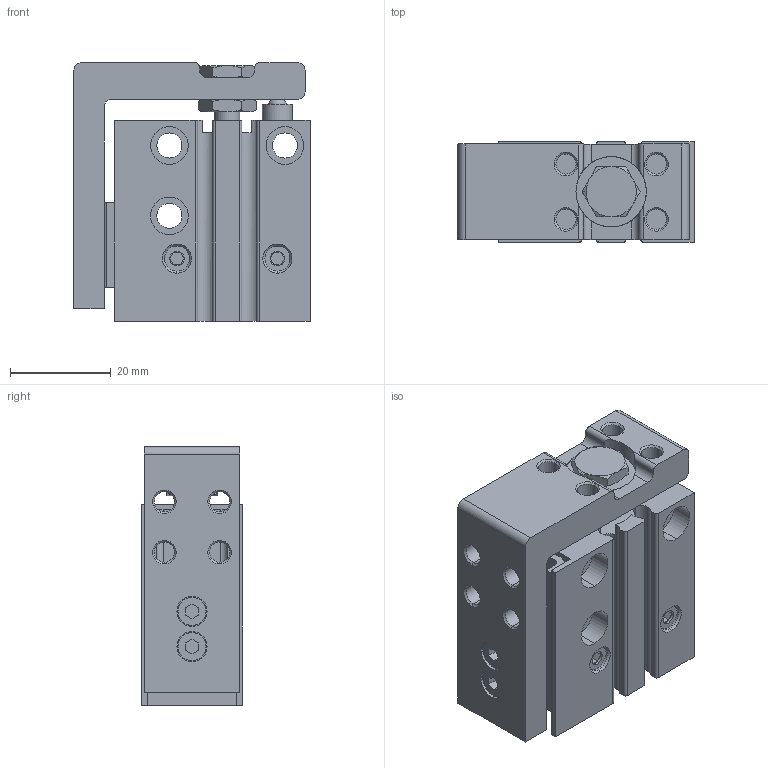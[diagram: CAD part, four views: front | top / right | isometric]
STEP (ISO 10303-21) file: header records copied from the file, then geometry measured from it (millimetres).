
FILE_DESCRIPTION (( 'STEP AP214' ), '1' );
FILE_NAME ('MXH10-5Z.step.step', '2021-06-16T03:56:38', ( '' ), ( '' ), 'SwSTEP 2.0', 'SolidWorks 2021', '' );
FILE_SCHEMA (( 'AUTOMOTIVE_DESIGN' ));
Length unit declared in the file: millimetre
Products named in the file (3): MXH10-5Z.step; MXH10-5Z.step_Table_105; MXH10-5Z.step_MXH_Body_105
Assembly tree (2 placements, depth 2):
  MXH10-5Z.step
    MXH10-5Z.step_MXH_Body_105
    MXH10-5Z.step_Table_105
Bounding box: 47 x 20 x 51.5 mm (x, y, z)
Volume: 33513.6 mm3; surface area: 18054.8 mm2
Topology: 2 solids, 2 shells, 390 faces, 947 edges, 581 vertices
Faces by surface type: plane 157, cylinder 133, cone 98, torus 2
Entity records: 12418 total; most frequent: CARTESIAN_POINT 2231, DIRECTION 2043, ORIENTED_EDGE 1854, EDGE_CURVE 927, AXIS2_PLACEMENT_3D 777, VERTEX_POINT 581, LINE 489, VECTOR 489
